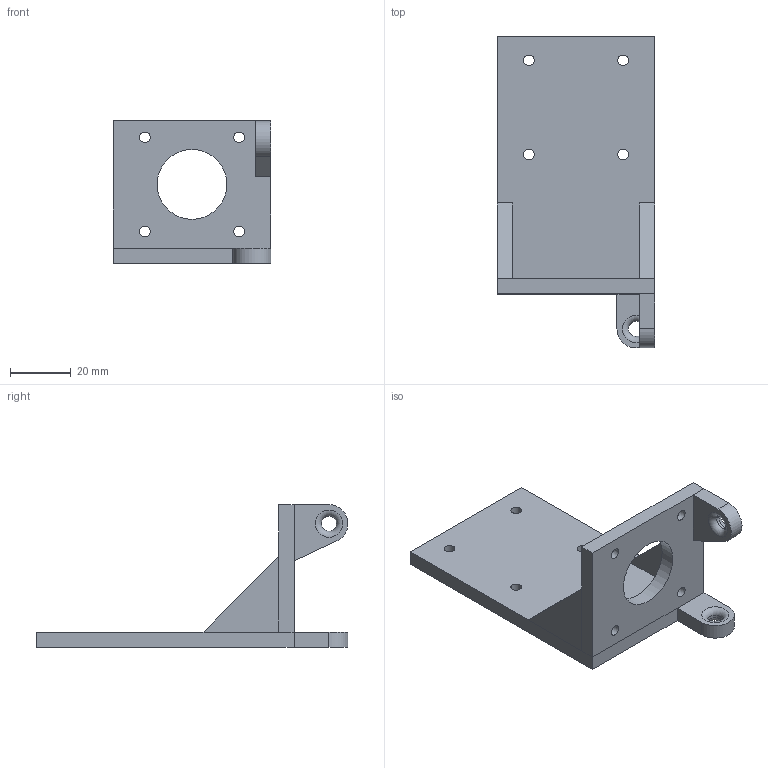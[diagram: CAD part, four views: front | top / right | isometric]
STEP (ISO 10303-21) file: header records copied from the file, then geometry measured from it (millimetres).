
FILE_DESCRIPTION(('FreeCAD Model'),'2;1');
FILE_NAME('Open CASCADE Shape Model','2021-07-27T11:56:40',('Author'),( ''),'Open CASCADE STEP processor 7.4','FreeCAD','Unknown');
FILE_SCHEMA(('AUTOMOTIVE_DESIGN { 1 0 10303 214 1 1 1 1 }'));
Length unit declared in the file: millimetre
Products named in the file (1): Motor
Bounding box: 52 x 102.75 x 47 mm (x, y, z)
Volume: 35668.2 mm3; surface area: 17125.8 mm2
Topology: 1 solids, 1 shells, 42 faces, 105 edges, 65 vertices
Faces by surface type: plane 25, cylinder 13, torus 4
Full cylindrical faces by diameter (mm): 3.5 x8, 5 x2, 23 x1
Entity records: 2696 total; most frequent: CARTESIAN_POINT 491, DIRECTION 417, LINE 247, VECTOR 247, ORIENTED_EDGE 210, PCURVE 210, DEFINITIONAL_REPRESENTATION 210, EDGE_CURVE 105
